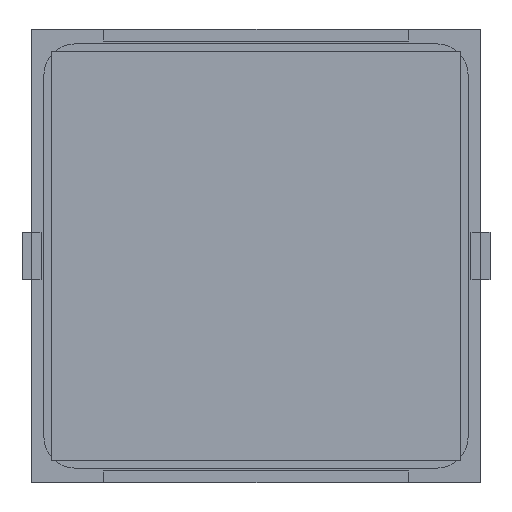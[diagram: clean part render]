
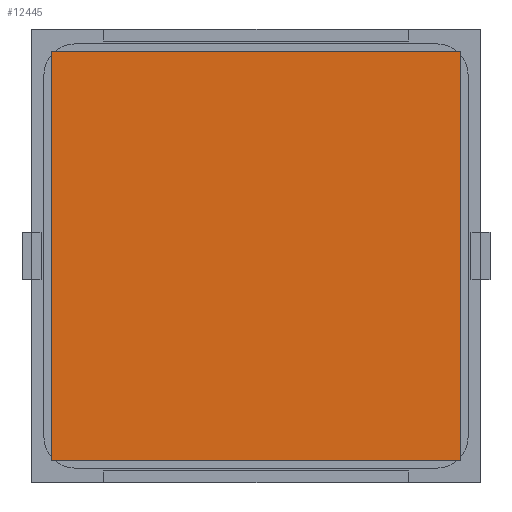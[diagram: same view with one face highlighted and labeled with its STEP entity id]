
A CAD part, front view. The second image highlights one B-rep face of the part: STEP entity #12445.
In plain terms, the highlighted planar face has unit normal (0, -1, 0).
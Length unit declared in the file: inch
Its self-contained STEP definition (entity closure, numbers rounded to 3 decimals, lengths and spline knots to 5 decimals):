
#292 = CARTESIAN_POINT ( 'NONE',  ( 0.84646, -0.005, -0.84646 ) ) ;
#886 = CARTESIAN_POINT ( 'NONE',  ( 0.84646, -0.005, 0.84646 ) ) ;
#1005 = CARTESIAN_POINT ( 'NONE',  ( 0.84646, -0.005, -0.84646 ) ) ;
#1060 = LINE ( 'NONE', #9062, #8121 ) ;
#1810 = VECTOR ( 'NONE', #9193, 39.37008 ) ;
#1945 = EDGE_CURVE ( 'NONE', #11467, #12628, #11151, .T. ) ;
#2479 = CARTESIAN_POINT ( 'NONE',  ( -0.84646, -0.005, 0.84646 ) ) ;
#3123 = ORIENTED_EDGE ( 'NONE', *, *, #6784, .F. ) ;
#3204 = VERTEX_POINT ( 'NONE', #886 ) ;
#3250 = CARTESIAN_POINT ( 'NONE',  ( -0.84646, -0.005, 0.84646 ) ) ;
#3342 = ORIENTED_EDGE ( 'NONE', *, *, #13153, .F. ) ;
#3593 = EDGE_CURVE ( 'NONE', #12628, #9992, #1060, .T. ) ;
#4135 = ORIENTED_EDGE ( 'NONE', *, *, #3593, .F. ) ;
#4312 = DIRECTION ( 'NONE',  ( 0., 1., 0. ) ) ;
#4533 = EDGE_LOOP ( 'NONE', ( #4135, #10482, #3342, #3123 ) ) ;
#5092 = DIRECTION ( 'NONE',  ( 0., 0., 1. ) ) ;
#5185 = DIRECTION ( 'NONE',  ( 1., 0., 0. ) ) ;
#5406 = VECTOR ( 'NONE', #5185, 39.37008 ) ;
#6784 = EDGE_CURVE ( 'NONE', #9992, #3204, #10502, .T. ) ;
#7378 = PLANE ( 'NONE',  #7550 ) ;
#7417 = VECTOR ( 'NONE', #12861, 39.37008 ) ;
#7550 = AXIS2_PLACEMENT_3D ( 'NONE', #3250, #4312, #12233 ) ;
#8121 = VECTOR ( 'NONE', #5092, 39.37008 ) ;
#9062 = CARTESIAN_POINT ( 'NONE',  ( -0.84646, -0.005, -0.84646 ) ) ;
#9193 = DIRECTION ( 'NONE',  ( 0., 0., -1. ) ) ;
#9992 = VERTEX_POINT ( 'NONE', #10884 ) ;
#10378 = FACE_OUTER_BOUND ( 'NONE', #4533, .T. ) ;
#10482 = ORIENTED_EDGE ( 'NONE', *, *, #1945, .F. ) ;
#10502 = LINE ( 'NONE', #2479, #5406 ) ;
#10884 = CARTESIAN_POINT ( 'NONE',  ( -0.84646, -0.005, 0.84646 ) ) ;
#11021 = LINE ( 'NONE', #1005, #1810 ) ;
#11151 = LINE ( 'NONE', #11843, #7417 ) ;
#11467 = VERTEX_POINT ( 'NONE', #292 ) ;
#11843 = CARTESIAN_POINT ( 'NONE',  ( -0.84646, -0.005, -0.84646 ) ) ;
#12233 = DIRECTION ( 'NONE',  ( 0., 0., 1. ) ) ;
#12415 = CARTESIAN_POINT ( 'NONE',  ( -0.84646, -0.005, -0.84646 ) ) ;
#12445 = ADVANCED_FACE ( 'NONE', ( #10378 ), #7378, .F. ) ;
#12628 = VERTEX_POINT ( 'NONE', #12415 ) ;
#12861 = DIRECTION ( 'NONE',  ( -1., 0., 0. ) ) ;
#13153 = EDGE_CURVE ( 'NONE', #3204, #11467, #11021, .T. ) ;
